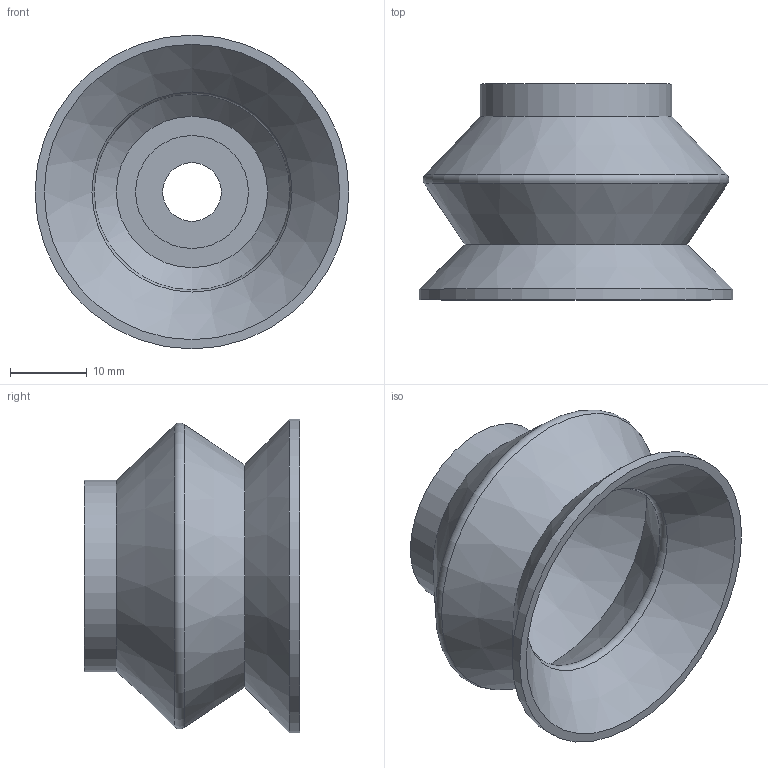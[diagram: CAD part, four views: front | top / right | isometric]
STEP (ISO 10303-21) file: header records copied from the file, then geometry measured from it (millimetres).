
FILE_DESCRIPTION (( 'STEP AP214' ), '1' );
FILE_NAME ('15B.041.100.STEP', '2025-02-24T18:07:56', ( '' ), ( '' ), 'SwSTEP 2.0', 'SolidWorks 2018', '' );
FILE_SCHEMA (( 'AUTOMOTIVE_DESIGN' ));
Length unit declared in the file: millimetre
Products named in the file (1): 15B.041.100
Bounding box: 41 x 28.2 x 41 mm (x, y, z)
Volume: 8970.8 mm3; surface area: 7438.7 mm2
Topology: 1 solids, 1 shells, 16 faces, 28 edges, 16 vertices
Faces by surface type: cone 6, plane 4, cylinder 4, torus 2
Full cylindrical faces by diameter (mm): 7.65 x1, 14.75 x1, 25 x1, 41 x1
Entity records: 362 total; most frequent: DIRECTION 66, CARTESIAN_POINT 49, AXIS2_PLACEMENT_3D 33, ORIENTED_EDGE 32, EDGE_LOOP 32, FACE_OUTER_BOUND 22, CIRCLE 16, VERTEX_POINT 16
